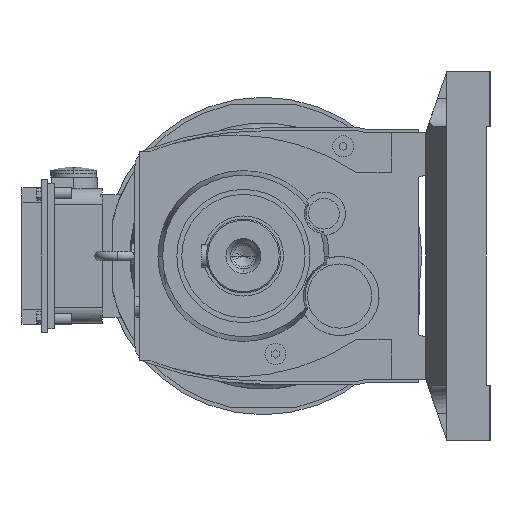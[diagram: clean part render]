
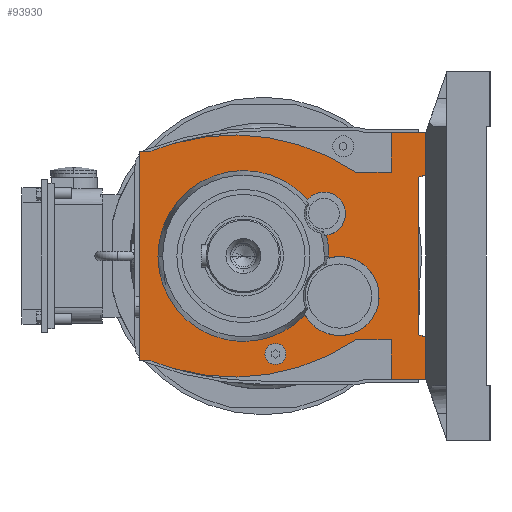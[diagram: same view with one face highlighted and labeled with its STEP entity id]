
A CAD part, left-side view. The second image highlights one B-rep face of the part: STEP entity #93930.
In plain terms, the highlighted planar face has unit normal (-1, 0, 0).
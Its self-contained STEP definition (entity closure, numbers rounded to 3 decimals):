
#1240=CARTESIAN_POINT('',(50.,-103.,31.));
#1250=VERTEX_POINT('',#1240);
#1280=CARTESIAN_POINT('',(50.,0.,31.));
#1290=DIRECTION('',(0.,-1.,0.));
#1300=VECTOR('',#1290,1.);
#1310=LINE('',#1280,#1300);
#1320=CARTESIAN_POINT('',(50.,-73.856,31.));
#1330=VERTEX_POINT('',#1320);
#1340=EDGE_CURVE('',#1330,#1250,#1310,.T.);
#4580=CARTESIAN_POINT('',(50.,92.,-122.055));
#4590=VERTEX_POINT('',#4580);
#4760=CARTESIAN_POINT('',(50.,92.,48.055));
#4770=VERTEX_POINT('',#4760);
#4800=CARTESIAN_POINT('',(50.,92.,0.));
#4810=DIRECTION('',(0.,0.,-1.));
#4820=VECTOR('',#4810,1.);
#4830=LINE('',#4800,#4820);
#4840=CARTESIAN_POINT('',(50.,92.,48.));
#4850=VERTEX_POINT('',#4840);
#4860=EDGE_CURVE('',#4770,#4850,#4830,.T.);
#4990=CARTESIAN_POINT('',(50.,92.,-122.));
#5000=VERTEX_POINT('',#4990);
#5030=EDGE_CURVE('',#5000,#4590,#4830,.T.);
#5360=CARTESIAN_POINT('',(50.,72.666,54.428));
#5370=VERTEX_POINT('',#5360);
#5400=CARTESIAN_POINT('',(50.,1.,-195.5));
#5410=DIRECTION('',(1.,0.,0.));
#5420=DIRECTION('',(0.,1.,0.));
#5430=AXIS2_PLACEMENT_3D('',#5400,#5410,#5420);
#5440=CIRCLE('',#5430,260.);
#5450=EDGE_CURVE('',#4770,#5370,#5440,.T.);
#6650=CARTESIAN_POINT('',(50.,-103.,-105.));
#6660=VERTEX_POINT('',#6650);
#6690=CARTESIAN_POINT('',(50.,-103.,0.));
#6700=DIRECTION('',(0.,0.,-1.));
#6710=VECTOR('',#6700,1.);
#6720=LINE('',#6690,#6710);
#6730=CARTESIAN_POINT('',(50.,-103.,-137.));
#6740=VERTEX_POINT('',#6730);
#6750=EDGE_CURVE('',#6660,#6740,#6720,.T.);
#8850=CARTESIAN_POINT('',(50.,86.306,-37.));
#8860=VERTEX_POINT('',#8850);
#8890=CARTESIAN_POINT('',(50.,17.,-37.));
#8900=DIRECTION('',(1.,0.,0.));
#8910=DIRECTION('',(0.,-1.,0.));
#8920=AXIS2_PLACEMENT_3D('',#8890,#8900,#8910);
#8930=CIRCLE('',#8920,69.306);
#8940=CARTESIAN_POINT('',(50.,-35.022,8.793));
#8950=VERTEX_POINT('',#8940);
#8960=EDGE_CURVE('',#8860,#8950,#8930,.T.);
#9700=CARTESIAN_POINT('',(50.,92.,48.));
#9710=DIRECTION('',(0.,1.,0.));
#9720=VECTOR('',#9710,1.);
#9730=LINE('',#9700,#9720);
#9740=CARTESIAN_POINT('',(50.,101.,48.));
#9750=VERTEX_POINT('',#9740);
#9760=EDGE_CURVE('',#4850,#9750,#9730,.T.);
#12390=CARTESIAN_POINT('',(50.,-128.,-101.464));
#12400=VERTEX_POINT('',#12390);
#12430=CARTESIAN_POINT('',(50.,0.,-83.475));
#12440=DIRECTION('',(0.,-0.99,-0.139));
#12450=VECTOR('',#12440,1.);
#12460=LINE('',#12430,#12450);
#12470=CARTESIAN_POINT('',(50.,-125.,-101.042));
#12480=VERTEX_POINT('',#12470);
#12490=EDGE_CURVE('',#12480,#12400,#12460,.T.);
#13680=CARTESIAN_POINT('',(50.,-62.582,7.312));
#13690=VERTEX_POINT('',#13680);
#13720=CARTESIAN_POINT('',(50.,-48.225,-2.694));
#13730=DIRECTION('',(1.,0.,0.));
#13740=DIRECTION('',(0.,0.82,-0.572));
#13750=AXIS2_PLACEMENT_3D('',#13720,#13730,#13740);
#13760=CIRCLE('',#13750,17.5);
#13770=CARTESIAN_POINT('',(50.,-50.209,-20.081));
#13780=VERTEX_POINT('',#13770);
#13790=EDGE_CURVE('',#13690,#13780,#13760,.T.);
#29110=CARTESIAN_POINT('',(50.,72.666,-128.428));
#29120=VERTEX_POINT('',#29110);
#29420=CARTESIAN_POINT('',(50.,1.,121.5));
#29430=DIRECTION('',(-1.,0.,0.));
#29440=DIRECTION('',(0.,1.,0.));
#29450=AXIS2_PLACEMENT_3D('',#29420,#29430,#29440);
#29460=CIRCLE('',#29450,260.);
#29470=EDGE_CURVE('',#4590,#29120,#29460,.T.);
#32740=CARTESIAN_POINT('',(50.,-131.,63.));
#32750=VERTEX_POINT('',#32740);
#32780=CARTESIAN_POINT('',(50.,0.,63.));
#32790=DIRECTION('',(0.,1.,0.));
#32800=VECTOR('',#32790,1.);
#32810=LINE('',#32780,#32800);
#32820=CARTESIAN_POINT('',(50.,-103.,63.));
#32830=VERTEX_POINT('',#32820);
#32840=EDGE_CURVE('',#32750,#32830,#32810,.T.);
#33550=CARTESIAN_POINT('',(50.,-73.856,-105.));
#33560=VERTEX_POINT('',#33550);
#33590=CARTESIAN_POINT('',(50.,0.,-105.));
#33600=DIRECTION('',(0.,-1.,0.));
#33610=VECTOR('',#33600,1.);
#33620=LINE('',#33590,#33610);
#33630=EDGE_CURVE('',#33560,#6660,#33620,.T.);
#34270=CARTESIAN_POINT('',(50.,-90.549,-81.782));
#34280=VERTEX_POINT('',#34270);
#34570=CARTESIAN_POINT('',(50.,-52.285,-38.693));
#34580=VERTEX_POINT('',#34570);
#34610=CARTESIAN_POINT('',(50.,-61.008,-69.481));
#34620=DIRECTION('',(-1.,0.,0.));
#34630=DIRECTION('',(0.,-0.923,-0.384));
#34640=AXIS2_PLACEMENT_3D('',#34610,#34620,#34630);
#34650=CIRCLE('',#34640,32.);
#34660=EDGE_CURVE('',#34280,#34580,#34650,.T.);
#36120=CARTESIAN_POINT('',(50.,-125.,0.));
#36130=DIRECTION('',(0.,0.,-1.));
#36140=VECTOR('',#36130,1.);
#36150=LINE('',#36120,#36140);
#36160=CARTESIAN_POINT('',(50.,-125.,27.042));
#36170=VERTEX_POINT('',#36160);
#36180=EDGE_CURVE('',#36170,#12480,#36150,.T.);
#38840=CARTESIAN_POINT('',(50.,24.429,39.793));
#38850=DIRECTION('',(1.,0.,0.));
#38860=DIRECTION('',(0.,-1.,0.));
#38870=AXIS2_PLACEMENT_3D('',#38840,#38850,#38860);
#38880=CIRCLE('',#38870,175.);
#38890=EDGE_CURVE('',#33560,#29120,#38880,.T.);
#39500=CARTESIAN_POINT('',(50.,-52.306,-37.));
#39510=VERTEX_POINT('',#39500);
#39540=CARTESIAN_POINT('',(50.,17.,-37.));
#39550=DIRECTION('',(1.,0.,0.));
#39560=DIRECTION('',(0.,-1.,0.));
#39570=AXIS2_PLACEMENT_3D('',#39540,#39550,#39560);
#39580=CIRCLE('',#39570,69.306);
#39590=EDGE_CURVE('',#39510,#34580,#39580,.T.);
#40180=CARTESIAN_POINT('',(50.,101.,-122.));
#40190=VERTEX_POINT('',#40180);
#40240=CARTESIAN_POINT('',(50.,101.,48.));
#40250=DIRECTION('',(0.,0.,-1.));
#40260=VECTOR('',#40250,1.);
#40270=LINE('',#40240,#40260);
#40280=EDGE_CURVE('',#9750,#40190,#40270,.T.);
#40550=CARTESIAN_POINT('',(50.,-103.,0.));
#40560=DIRECTION('',(0.,0.,-1.));
#40570=VECTOR('',#40560,1.);
#40580=LINE('',#40550,#40570);
#40590=EDGE_CURVE('',#32830,#1250,#40580,.T.);
#40720=CARTESIAN_POINT('',(50.,24.429,-113.793));
#40730=DIRECTION('',(-1.,0.,0.));
#40740=DIRECTION('',(0.,-1.,0.));
#40750=AXIS2_PLACEMENT_3D('',#40720,#40730,#40740);
#40760=CIRCLE('',#40750,175.);
#40770=EDGE_CURVE('',#1330,#5370,#40760,.T.);
#47310=CARTESIAN_POINT('',(50.,0.,9.475));
#47320=DIRECTION('',(0.,0.99,-0.139));
#47330=VECTOR('',#47320,1.);
#47340=LINE('',#47310,#47330);
#47350=CARTESIAN_POINT('',(50.,-128.,27.464));
#47360=VERTEX_POINT('',#47350);
#47370=EDGE_CURVE('',#47360,#36170,#47340,.T.);
#49080=CARTESIAN_POINT('',(50.,92.,-122.));
#49090=DIRECTION('',(0.,1.,0.));
#49100=VECTOR('',#49090,1.);
#49110=LINE('',#49080,#49100);
#49120=EDGE_CURVE('',#5000,#40190,#49110,.T.);
#49450=CARTESIAN_POINT('',(50.,-128.,0.));
#49460=DIRECTION('',(0.,0.,1.));
#49470=VECTOR('',#49460,1.);
#49480=LINE('',#49450,#49470);
#49490=CARTESIAN_POINT('',(50.,-128.,-102.));
#49500=VERTEX_POINT('',#49490);
#49510=EDGE_CURVE('',#49500,#12400,#49480,.T.);
#53120=CARTESIAN_POINT('',(50.,-128.,0.));
#53130=DIRECTION('',(0.,0.,1.));
#53140=VECTOR('',#53130,1.);
#53150=LINE('',#53120,#53140);
#53160=CARTESIAN_POINT('',(50.,-128.,28.));
#53170=VERTEX_POINT('',#53160);
#53180=EDGE_CURVE('',#47360,#53170,#53150,.T.);
#63400=CARTESIAN_POINT('',(50.,17.,28.));
#63410=DIRECTION('',(0.,-1.,0.));
#63420=VECTOR('',#63410,1.);
#63430=LINE('',#63400,#63420);
#63440=CARTESIAN_POINT('',(50.,-131.,28.));
#63450=VERTEX_POINT('',#63440);
#63460=EDGE_CURVE('',#53170,#63450,#63430,.T.);
#87800=CARTESIAN_POINT('',(50.,-131.,-102.));
#87810=VERTEX_POINT('',#87800);
#88060=CARTESIAN_POINT('',(50.,17.,-102.));
#88070=DIRECTION('',(0.,1.,0.));
#88080=VECTOR('',#88070,1.);
#88090=LINE('',#88060,#88080);
#88100=EDGE_CURVE('',#87810,#49500,#88090,.T.);
#88480=CARTESIAN_POINT('',(50.,0.,-137.));
#88490=DIRECTION('',(0.,-1.,0.));
#88500=VECTOR('',#88490,1.);
#88510=LINE('',#88480,#88500);
#88520=CARTESIAN_POINT('',(50.,-131.,-137.));
#88530=VERTEX_POINT('',#88520);
#88540=EDGE_CURVE('',#6740,#88530,#88510,.T.);
#92970=CARTESIAN_POINT('',(50.,-131.,-37.));
#92980=DIRECTION('',(0.,0.,1.));
#92990=VECTOR('',#92980,1.);
#93000=LINE('',#92970,#92990);
#93010=EDGE_CURVE('',#63450,#32750,#93000,.T.);
#93100=CARTESIAN_POINT('',(50.,-131.,-37.));
#93110=DIRECTION('',(0.,0.,1.));
#93120=VECTOR('',#93110,1.);
#93130=LINE('',#93100,#93120);
#93140=EDGE_CURVE('',#88530,#87810,#93130,.T.);
#93310=CARTESIAN_POINT('',(50.,-128.,63.));
#93320=DIRECTION('',(-1.,0.,0.));
#93330=DIRECTION('',(0.,1.,0.));
#93340=AXIS2_PLACEMENT_3D('',#93310,#93320,#93330);
#93350=PLANE('',#93340);
#93360=ORIENTED_EDGE('',*,*,#53180,.T.);
#93370=ORIENTED_EDGE('',*,*,#47370,.F.);
#93380=ORIENTED_EDGE('',*,*,#36180,.F.);
#93390=ORIENTED_EDGE('',*,*,#12490,.F.);
#93400=ORIENTED_EDGE('',*,*,#49510,.T.);
#93410=ORIENTED_EDGE('',*,*,#88100,.T.);
#93420=ORIENTED_EDGE('',*,*,#93140,.T.);
#93430=ORIENTED_EDGE('',*,*,#88540,.T.);
#93440=ORIENTED_EDGE('',*,*,#6750,.T.);
#93450=ORIENTED_EDGE('',*,*,#33630,.T.);
#93460=ORIENTED_EDGE('',*,*,#38890,.F.);
#93470=ORIENTED_EDGE('',*,*,#29470,.T.);
#93480=ORIENTED_EDGE('',*,*,#5030,.T.);
#93490=ORIENTED_EDGE('',*,*,#49120,.F.);
#93500=ORIENTED_EDGE('',*,*,#40280,.T.);
#93510=ORIENTED_EDGE('',*,*,#9760,.T.);
#93520=ORIENTED_EDGE('',*,*,#4860,.T.);
#93530=ORIENTED_EDGE('',*,*,#5450,.F.);
#93540=ORIENTED_EDGE('',*,*,#40770,.T.);
#93550=ORIENTED_EDGE('',*,*,#1340,.F.);
#93560=ORIENTED_EDGE('',*,*,#40590,.T.);
#93570=ORIENTED_EDGE('',*,*,#32840,.T.);
#93580=ORIENTED_EDGE('',*,*,#93010,.T.);
#93590=ORIENTED_EDGE('',*,*,#63460,.T.);
#93600=EDGE_LOOP('',(#93590,#93580,#93570,#93560,#93550,#93540,#93530,#93520,#93510,#93500,#93490,#93480,#93470,#93460,#93450,#93440,#93430,#93420,#93410,#93400,#93390,#93380,#93370,#93360));
#93610=FACE_OUTER_BOUND('',#93600,.T.);
#93620=EDGE_CURVE('',#8950,#13690,#13760,.T.);
#93630=ORIENTED_EDGE('',*,*,#93620,.T.);
#93640=ORIENTED_EDGE('',*,*,#8960,.T.);
#93650=CARTESIAN_POINT('',(50.,-33.012,-84.98));
#93660=VERTEX_POINT('',#93650);
#93670=EDGE_CURVE('',#93660,#8860,#8930,.T.);
#93680=ORIENTED_EDGE('',*,*,#93670,.T.);
#93690=EDGE_CURVE('',#93660,#34280,#34650,.T.);
#93700=ORIENTED_EDGE('',*,*,#93690,.F.);
#93710=ORIENTED_EDGE('',*,*,#34660,.F.);
#93720=ORIENTED_EDGE('',*,*,#39590,.T.);
#93730=EDGE_CURVE('',#13780,#39510,#39580,.T.);
#93740=ORIENTED_EDGE('',*,*,#93730,.T.);
#93750=ORIENTED_EDGE('',*,*,#13790,.T.);
#93760=EDGE_LOOP('',(#93750,#93740,#93720,#93710,#93700,#93680,#93640,#93630));
#93770=FACE_BOUND('',#93760,.T.);
#93780=CARTESIAN_POINT('',(50.,-9.,-116.5));
#93790=DIRECTION('',(-1.,0.,0.));
#93800=DIRECTION('',(0.,1.,0.));
#93810=AXIS2_PLACEMENT_3D('',#93780,#93790,#93800);
#93820=CIRCLE('',#93810,8.5);
#93830=CARTESIAN_POINT('',(50.,-0.5,-116.5));
#93840=VERTEX_POINT('',#93830);
#93850=CARTESIAN_POINT('',(50.,-17.5,-116.5));
#93860=VERTEX_POINT('',#93850);
#93870=EDGE_CURVE('',#93840,#93860,#93820,.T.);
#93880=ORIENTED_EDGE('',*,*,#93870,.F.);
#93890=EDGE_CURVE('',#93860,#93840,#93820,.T.);
#93900=ORIENTED_EDGE('',*,*,#93890,.F.);
#93910=EDGE_LOOP('',(#93900,#93880));
#93920=FACE_BOUND('',#93910,.T.);
#93930=ADVANCED_FACE('',(#93610,#93770,#93920),#93350,.T.);
